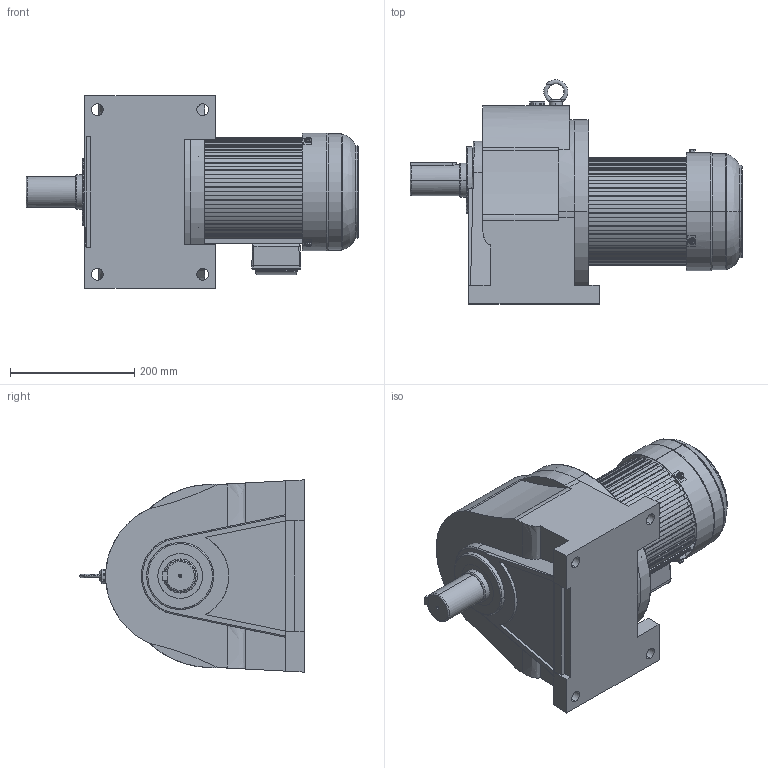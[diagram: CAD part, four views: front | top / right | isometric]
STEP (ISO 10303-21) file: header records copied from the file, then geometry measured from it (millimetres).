
FILE_DESCRIPTION (( 'STEP AP214' ), '1' );
FILE_NAME ('CH50-1500W去字改颜色.STEP', '2024-01-10T02:54:52', ( '微软用户' ), ( '微软中国' ), 'SwSTEP 2.0', 'SolidWorks 2014', '' );
FILE_SCHEMA (( 'AUTOMOTIVE_DESIGN' ));
Length unit declared in the file: millimetre
Products named in the file (9): 諉盄碟蹟佪; 奻裔(臏ㄘ; 菁碟ㄗ臏ㄘ; 瑞珔欶蹟佪; 190瑞珔欶; 160綴裔; 1500W萇儂俋褲; CH50; CH50-1500W去字改颜色
Assembly tree (13 placements, depth 2):
  CH50-1500W去字改颜色
    CH50
    1500W萇儂俋褲
    160綴裔
    190瑞珔欶
    瑞珔欶蹟佪  x3
    菁碟ㄗ臏ㄘ
    奻裔(臏ㄘ
    諉盄碟蹟佪  x4
Bounding box: 535.17 x 361.6 x 310 mm (x, y, z)
Volume: 15203249 mm3; surface area: 1110991.1 mm2
Topology: 25 solids, 25 shells, 2055 faces, 5692 edges, 3738 vertices
Faces by surface type: plane 919, cylinder 905, bspline 167, cone 64
Entity records: 91657 total; most frequent: CARTESIAN_POINT 44900, ORIENTED_EDGE 9834, DIRECTION 8952, EDGE_CURVE 4917, VERTEX_POINT 3231, AXIS2_PLACEMENT_3D 2985, VECTOR 2982, LINE 2982
